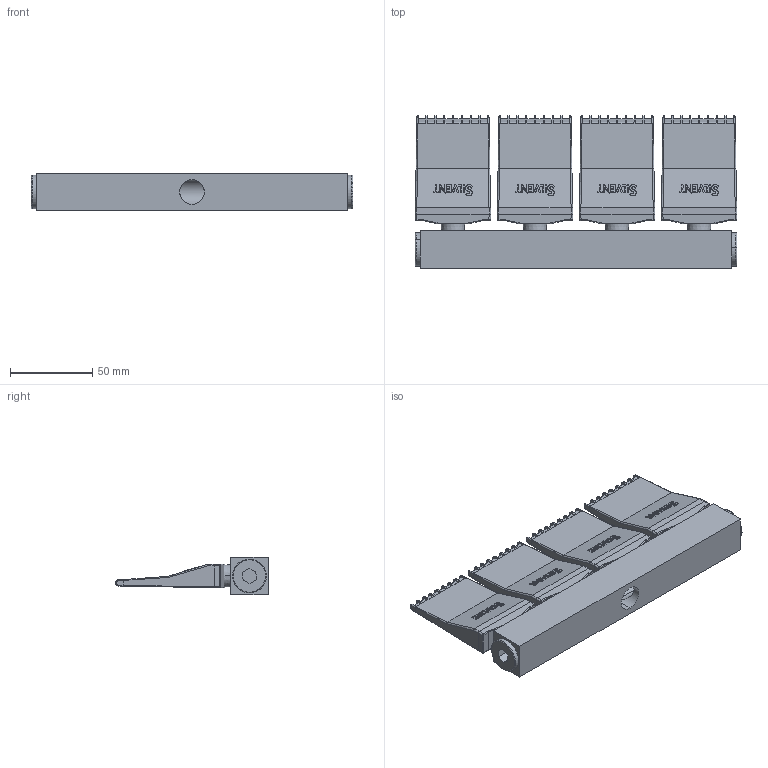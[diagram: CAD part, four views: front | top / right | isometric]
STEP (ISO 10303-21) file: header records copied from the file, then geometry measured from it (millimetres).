
FILE_DESCRIPTION (( 'STEP AP214' ), '1' );
FILE_NAME ('Silvent 394.STEP', '2005-09-13T09:47:49', ( 'Peter Svensson' ), ( '' ), 'SwSTEP 2.0', 'SolidWorks 2004073', '' );
FILE_SCHEMA (( 'AUTOMOTIVE_DESIGN' ));
Length unit declared in the file: millimetre
Products named in the file (4): Silvent 920; Plugg 300; Profil 304; Silvent 394
Assembly tree (7 placements, depth 2):
  Silvent 394
    Plugg 300  x2
    Silvent 920  x4
    Profil 304
Bounding box: 196 x 93 x 23 mm (x, y, z)
Volume: 173573.5 mm3; surface area: 63038.2 mm2
Topology: 7 solids, 7 shells, 1260 faces, 3362 edges, 2144 vertices
Faces by surface type: plane 652, cylinder 484, bspline 88, cone 20, torus 8, sphere 8
Entity records: 15385 total; most frequent: CARTESIAN_POINT 6892, ORIENTED_EDGE 1800, DIRECTION 1658, EDGE_CURVE 900, VERTEX_POINT 576, VECTOR 558, LINE 558, AXIS2_PLACEMENT_3D 550
